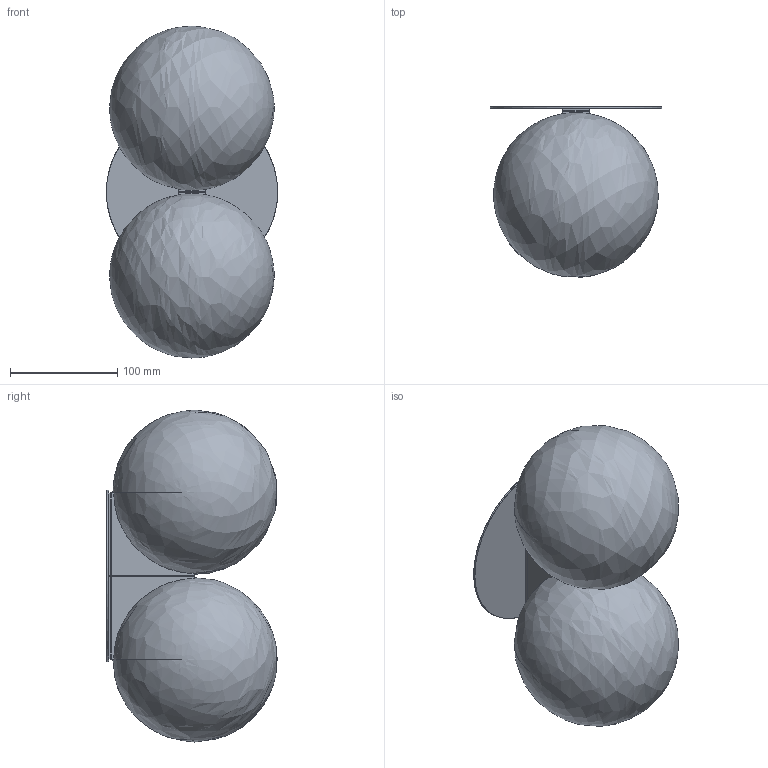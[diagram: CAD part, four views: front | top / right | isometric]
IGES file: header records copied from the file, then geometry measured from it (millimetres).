
Start section: Use this template file for building objects the size of a truck or smaller, and for objects which must be built to manufacturing tolerances. Units: Millimeters Absolute tolerance: .001 mm
Global section: file name: /Volumes/Company/WIP/Marlen/WFH/Website/SALES 3D/BAC/WALL/DS150/3D web /MA_BAC DS150_120V_2017.igs; preprocessor: Trout Lake IGES 012 Dec  4 2019; date: 201202.113744; units: millimetre
Bounding box: 160 x 158.84 x 309.89 mm (x, y, z)
Surface area: 192420.4 mm2 (no closed solid volume)
Topology: 0 solids, 0 shells, 28 faces, 219 edges, 214 vertices
Faces by surface type: bspline 28
